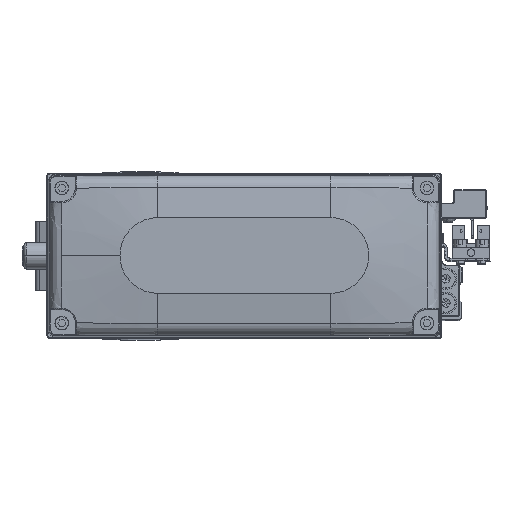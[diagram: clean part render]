
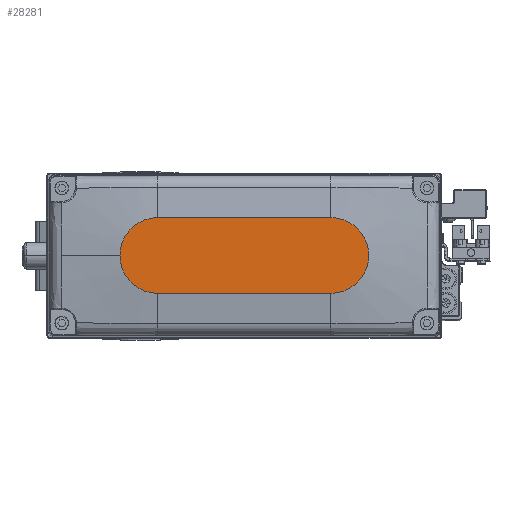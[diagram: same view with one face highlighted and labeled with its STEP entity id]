
A CAD part, top view. The second image highlights one B-rep face of the part: STEP entity #28281.
In plain terms, the highlighted planar face has unit normal (0, 0, 1).
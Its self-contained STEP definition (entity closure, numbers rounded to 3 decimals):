
#63 = DIRECTION ( 'NONE',  ( 0., 0., 1. ) ) ;
#433 = EDGE_CURVE ( 'NONE', #20142, #33558, #8969, .T. ) ;
#561 = CARTESIAN_POINT ( 'NONE',  ( 46., 0., 35. ) ) ;
#2862 = DIRECTION ( 'NONE',  ( 0., 0., 1. ) ) ;
#5732 = ORIENTED_EDGE ( 'NONE', *, *, #6348, .T. ) ;
#5770 = VERTEX_POINT ( 'NONE', #561 ) ;
#6024 = CIRCLE ( 'NONE', #30879, 14. ) ;
#6348 = EDGE_CURVE ( 'NONE', #33558, #9290, #39807, .T. ) ;
#6797 = DIRECTION ( 'NONE',  ( 1., 0., 0. ) ) ;
#8204 = CARTESIAN_POINT ( 'NONE',  ( 32., 0., 35. ) ) ;
#8969 = LINE ( 'NONE', #22546, #24225 ) ;
#9022 = ORIENTED_EDGE ( 'NONE', *, *, #32915, .T. ) ;
#9093 = ORIENTED_EDGE ( 'NONE', *, *, #27535, .T. ) ;
#9290 = VERTEX_POINT ( 'NONE', #42702 ) ;
#10153 = PLANE ( 'NONE',  #32344 ) ;
#11836 = VECTOR ( 'NONE', #42637, 1000. ) ;
#13603 = DIRECTION ( 'NONE',  ( 1., 0., 0. ) ) ;
#14020 = CARTESIAN_POINT ( 'NONE',  ( 32., 14., 35. ) ) ;
#15581 = LINE ( 'NONE', #29133, #11836 ) ;
#16410 = DIRECTION ( 'NONE',  ( 1., 0., 0. ) ) ;
#16590 = ORIENTED_EDGE ( 'NONE', *, *, #433, .T. ) ;
#20142 = VERTEX_POINT ( 'NONE', #14020 ) ;
#20673 = AXIS2_PLACEMENT_3D ( 'NONE', #30500, #63, #13603 ) ;
#21770 = DIRECTION ( 'NONE',  ( 0., 0., 1. ) ) ;
#22332 = EDGE_LOOP ( 'NONE', ( #16590, #5732, #9022, #9093, #32866 ) ) ;
#22369 = CIRCLE ( 'NONE', #28032, 14. ) ;
#22546 = CARTESIAN_POINT ( 'NONE',  ( -32., 14., 35. ) ) ;
#23695 = CARTESIAN_POINT ( 'NONE',  ( 0., 0., 35. ) ) ;
#24225 = VECTOR ( 'NONE', #36073, 1000. ) ;
#27535 = EDGE_CURVE ( 'NONE', #39725, #5770, #22369, .T. ) ;
#28032 = AXIS2_PLACEMENT_3D ( 'NONE', #8204, #21770, #35318 ) ;
#28281 = ADVANCED_FACE ( 'NONE', ( #40556 ), #10153, .T. ) ;
#29133 = CARTESIAN_POINT ( 'NONE',  ( -32., -14., 35. ) ) ;
#29995 = CARTESIAN_POINT ( 'NONE',  ( 32., -14., 35. ) ) ;
#30500 = CARTESIAN_POINT ( 'NONE',  ( -32., 0., 35. ) ) ;
#30879 = AXIS2_PLACEMENT_3D ( 'NONE', #33292, #2862, #16410 ) ;
#32344 = AXIS2_PLACEMENT_3D ( 'NONE', #23695, #37227, #6797 ) ;
#32866 = ORIENTED_EDGE ( 'NONE', *, *, #34738, .T. ) ;
#32915 = EDGE_CURVE ( 'NONE', #9290, #39725, #15581, .T. ) ;
#33292 = CARTESIAN_POINT ( 'NONE',  ( 32., 0., 35. ) ) ;
#33558 = VERTEX_POINT ( 'NONE', #41599 ) ;
#34738 = EDGE_CURVE ( 'NONE', #5770, #20142, #6024, .T. ) ;
#35318 = DIRECTION ( 'NONE',  ( 1., 0., 0. ) ) ;
#36073 = DIRECTION ( 'NONE',  ( -1., 0., 0. ) ) ;
#37227 = DIRECTION ( 'NONE',  ( 0., 0., 1. ) ) ;
#39725 = VERTEX_POINT ( 'NONE', #29995 ) ;
#39807 = CIRCLE ( 'NONE', #20673, 14. ) ;
#40556 = FACE_OUTER_BOUND ( 'NONE', #22332, .T. ) ;
#41599 = CARTESIAN_POINT ( 'NONE',  ( -32., 14., 35. ) ) ;
#42637 = DIRECTION ( 'NONE',  ( 1., 0., 0. ) ) ;
#42702 = CARTESIAN_POINT ( 'NONE',  ( -32., -14., 35. ) ) ;
